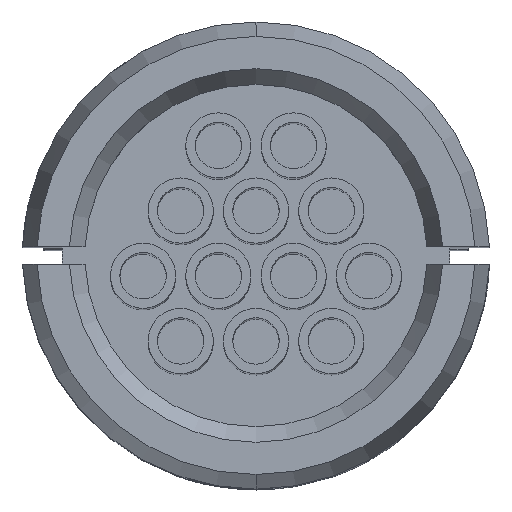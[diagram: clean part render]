
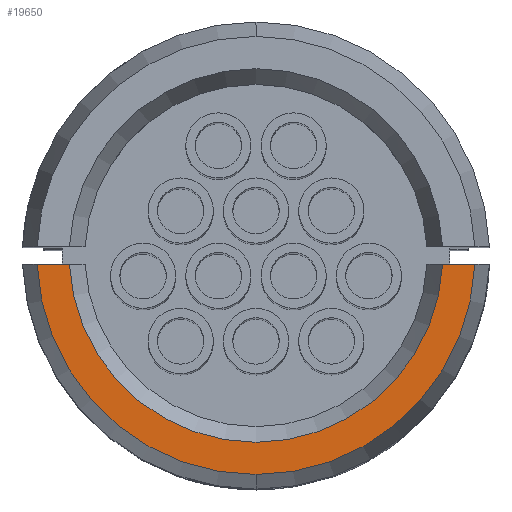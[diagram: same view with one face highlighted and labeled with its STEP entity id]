
A CAD part, top view. The second image highlights one B-rep face of the part: STEP entity #19650.
In plain terms, the highlighted planar face has unit normal (0, 0, 1).
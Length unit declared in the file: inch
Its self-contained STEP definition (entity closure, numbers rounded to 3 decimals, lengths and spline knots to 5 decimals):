
#53 = DIRECTION ( 'NONE',  ( 0., -1., 0. ) ) ;
#269 = AXIS2_PLACEMENT_3D ( 'NONE', #8899, #19759, #53 ) ;
#1111 = EDGE_LOOP ( 'NONE', ( #2723, #14777, #8015, #9164, #20061 ) ) ;
#1125 = DIRECTION ( 'NONE',  ( 1., 0., 0. ) ) ;
#2723 = ORIENTED_EDGE ( 'NONE', *, *, #22126, .F. ) ;
#3043 = DIRECTION ( 'NONE',  ( 0., -1., 0. ) ) ;
#3314 = FACE_OUTER_BOUND ( 'NONE', #1111, .T. ) ;
#3676 = CARTESIAN_POINT ( 'NONE',  ( 0.39655, -0.01563, 0. ) ) ;
#4580 = EDGE_CURVE ( 'NONE', #18888, #13546, #15801, .T. ) ;
#4669 = EDGE_CURVE ( 'NONE', #17219, #7662, #5151, .T. ) ;
#5151 = LINE ( 'NONE', #16333, #22517 ) ;
#5226 = VERTEX_POINT ( 'NONE', #12233 ) ;
#6268 = LINE ( 'NONE', #13612, #13595 ) ;
#6575 = PLANE ( 'NONE',  #17180 ) ;
#7022 = DIRECTION ( 'NONE',  ( 0., 1., 0. ) ) ;
#7662 = VERTEX_POINT ( 'NONE', #3676 ) ;
#8015 = ORIENTED_EDGE ( 'NONE', *, *, #11260, .F. ) ;
#8091 = CARTESIAN_POINT ( 'NONE',  ( 0., -0.39686, 0. ) ) ;
#8899 = CARTESIAN_POINT ( 'NONE',  ( 0., 0., 0. ) ) ;
#9164 = ORIENTED_EDGE ( 'NONE', *, *, #4669, .F. ) ;
#9884 = CARTESIAN_POINT ( 'NONE',  ( 0.33809, -0.01563, 0. ) ) ;
#10012 = CARTESIAN_POINT ( 'NONE',  ( -0.39655, -0.01563, 0. ) ) ;
#11260 = EDGE_CURVE ( 'NONE', #7662, #18888, #20384, .T. ) ;
#12173 = EDGE_CURVE ( 'NONE', #17219, #5226, #14016, .T. ) ;
#12233 = CARTESIAN_POINT ( 'NONE',  ( -0.33809, -0.01563, 0. ) ) ;
#12448 = AXIS2_PLACEMENT_3D ( 'NONE', #15758, #19127, #3043 ) ;
#13546 = VERTEX_POINT ( 'NONE', #10012 ) ;
#13595 = VECTOR ( 'NONE', #1125, 39.37008 ) ;
#13612 = CARTESIAN_POINT ( 'NONE',  ( 0., -0.01563, 0. ) ) ;
#13695 = CARTESIAN_POINT ( 'NONE',  ( -0.33845, 0., 0. ) ) ;
#14016 = CIRCLE ( 'NONE', #22975, 0.33845 ) ;
#14777 = ORIENTED_EDGE ( 'NONE', *, *, #4580, .F. ) ;
#15758 = CARTESIAN_POINT ( 'NONE',  ( 0., 0., 0. ) ) ;
#15801 = CIRCLE ( 'NONE', #12448, 0.39686 ) ;
#16333 = CARTESIAN_POINT ( 'NONE',  ( 0., -0.01563, 0. ) ) ;
#17180 = AXIS2_PLACEMENT_3D ( 'NONE', #13695, #18939, #7022 ) ;
#17219 = VERTEX_POINT ( 'NONE', #9884 ) ;
#18888 = VERTEX_POINT ( 'NONE', #8091 ) ;
#18939 = DIRECTION ( 'NONE',  ( 0., 0., 1. ) ) ;
#19071 = DIRECTION ( 'NONE',  ( 0., 0., -1. ) ) ;
#19127 = DIRECTION ( 'NONE',  ( 0., 0., -1. ) ) ;
#19650 = ADVANCED_FACE ( 'NONE', ( #3314 ), #6575, .T. ) ;
#19759 = DIRECTION ( 'NONE',  ( 0., 0., -1. ) ) ;
#20061 = ORIENTED_EDGE ( 'NONE', *, *, #12173, .T. ) ;
#20384 = CIRCLE ( 'NONE', #269, 0.39686 ) ;
#21354 = DIRECTION ( 'NONE',  ( 1., 0., 0. ) ) ;
#22044 = DIRECTION ( 'NONE',  ( 0., -1., 0. ) ) ;
#22126 = EDGE_CURVE ( 'NONE', #13546, #5226, #6268, .T. ) ;
#22517 = VECTOR ( 'NONE', #21354, 39.37008 ) ;
#22711 = CARTESIAN_POINT ( 'NONE',  ( 0., 0., 0. ) ) ;
#22975 = AXIS2_PLACEMENT_3D ( 'NONE', #22711, #19071, #22044 ) ;
